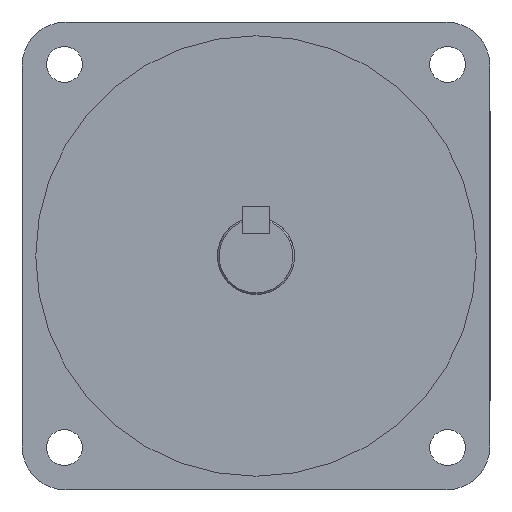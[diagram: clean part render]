
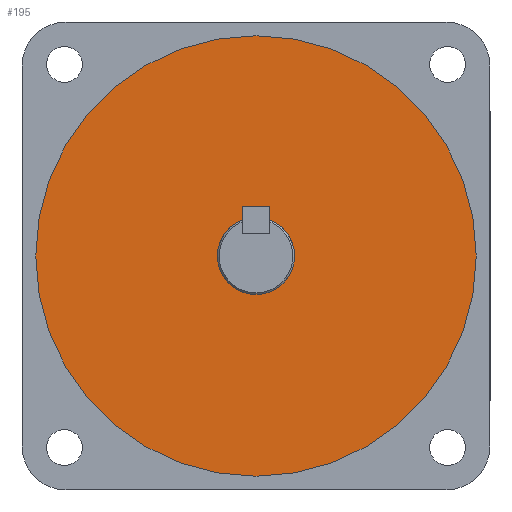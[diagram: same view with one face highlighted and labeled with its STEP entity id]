
A CAD part, left-side view. The second image highlights one B-rep face of the part: STEP entity #195.
In plain terms, the highlighted planar face has unit normal (-1, 0, 0).
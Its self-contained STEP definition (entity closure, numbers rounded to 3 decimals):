
#147 = DIRECTION ( 'NONE',  ( 0., 0., 1. ) ) ;
#195 = ADVANCED_FACE ( 'NONE', ( #2705, #2611 ), #2799, .T. ) ;
#398 = ORIENTED_EDGE ( 'NONE', *, *, #1477, .F. ) ;
#471 = DIRECTION ( 'NONE',  ( -1., 0., 0. ) ) ;
#507 = ORIENTED_EDGE ( 'NONE', *, *, #650, .T. ) ;
#650 = EDGE_CURVE ( 'NONE', #1795, #2622, #867, .T. ) ;
#716 = AXIS2_PLACEMENT_3D ( 'NONE', #2521, #2234, #1942 ) ;
#762 = CARTESIAN_POINT ( 'NONE',  ( -1.5, 0., 0. ) ) ;
#867 = CIRCLE ( 'NONE', #2303, 40. ) ;
#991 = ORIENTED_EDGE ( 'NONE', *, *, #1527, .F. ) ;
#1052 = EDGE_LOOP ( 'NONE', ( #507, #2025 ) ) ;
#1057 = CIRCLE ( 'NONE', #1536, 40. ) ;
#1063 = CIRCLE ( 'NONE', #716, 7. ) ;
#1232 = CARTESIAN_POINT ( 'NONE',  ( -1.5, 0., 40. ) ) ;
#1290 = DIRECTION ( 'NONE',  ( 0., 0., 1. ) ) ;
#1477 = EDGE_CURVE ( 'NONE', #2153, #2212, #1520, .T. ) ;
#1520 = CIRCLE ( 'NONE', #2543, 7. ) ;
#1527 = EDGE_CURVE ( 'NONE', #2212, #2153, #1063, .T. ) ;
#1536 = AXIS2_PLACEMENT_3D ( 'NONE', #2657, #2358, #2079 ) ;
#1584 = DIRECTION ( 'NONE',  ( -1., 0., 0. ) ) ;
#1620 = EDGE_LOOP ( 'NONE', ( #398, #991 ) ) ;
#1625 = CARTESIAN_POINT ( 'NONE',  ( -1.5, 0., -40. ) ) ;
#1755 = DIRECTION ( 'NONE',  ( 0., 0., 1. ) ) ;
#1763 = CARTESIAN_POINT ( 'NONE',  ( -1.5, 0., -7. ) ) ;
#1795 = VERTEX_POINT ( 'NONE', #1625 ) ;
#1849 = CARTESIAN_POINT ( 'NONE',  ( -1.5, 0., 7. ) ) ;
#1872 = CARTESIAN_POINT ( 'NONE',  ( -1.5, 0., 0. ) ) ;
#1942 = DIRECTION ( 'NONE',  ( 0., 0., 1. ) ) ;
#2025 = ORIENTED_EDGE ( 'NONE', *, *, #2789, .T. ) ;
#2057 = DIRECTION ( 'NONE',  ( -1., 0., 0. ) ) ;
#2079 = DIRECTION ( 'NONE',  ( 0., 0., 1. ) ) ;
#2153 = VERTEX_POINT ( 'NONE', #1763 ) ;
#2212 = VERTEX_POINT ( 'NONE', #1849 ) ;
#2234 = DIRECTION ( 'NONE',  ( -1., 0., 0. ) ) ;
#2303 = AXIS2_PLACEMENT_3D ( 'NONE', #1872, #1584, #1290 ) ;
#2334 = CARTESIAN_POINT ( 'NONE',  ( -1.5, 0., 0. ) ) ;
#2358 = DIRECTION ( 'NONE',  ( -1., 0., 0. ) ) ;
#2521 = CARTESIAN_POINT ( 'NONE',  ( -1.5, 0., 0. ) ) ;
#2543 = AXIS2_PLACEMENT_3D ( 'NONE', #2334, #2057, #1755 ) ;
#2611 = FACE_BOUND ( 'NONE', #1620, .T. ) ;
#2622 = VERTEX_POINT ( 'NONE', #1232 ) ;
#2652 = AXIS2_PLACEMENT_3D ( 'NONE', #762, #471, #147 ) ;
#2657 = CARTESIAN_POINT ( 'NONE',  ( -1.5, 0., 0. ) ) ;
#2705 = FACE_OUTER_BOUND ( 'NONE', #1052, .T. ) ;
#2789 = EDGE_CURVE ( 'NONE', #2622, #1795, #1057, .T. ) ;
#2799 = PLANE ( 'NONE',  #2652 ) ;
